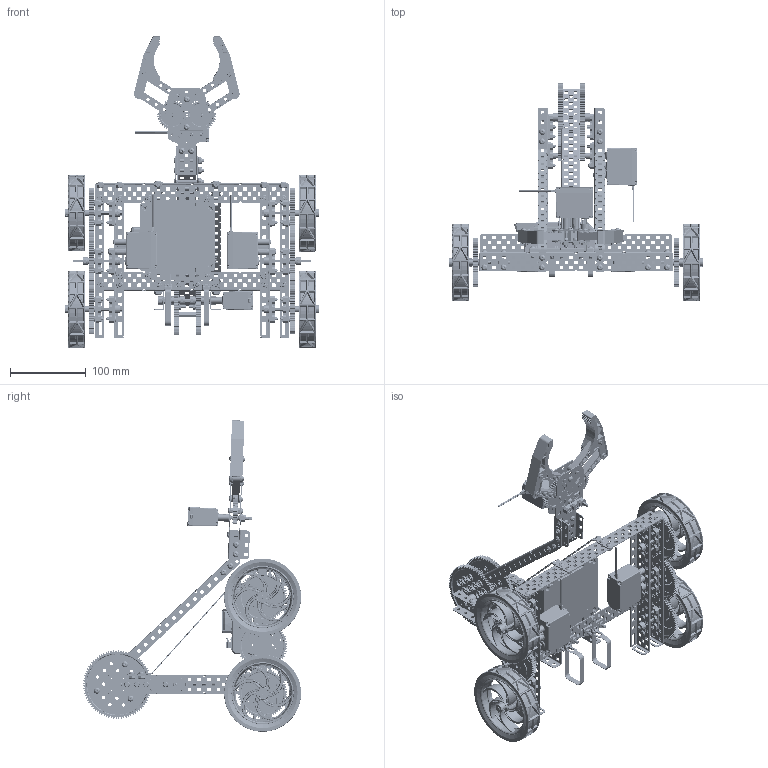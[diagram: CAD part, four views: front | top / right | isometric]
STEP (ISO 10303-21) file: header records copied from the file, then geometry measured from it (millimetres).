
FILE_DESCRIPTION((''),'2;1');
FILE_NAME('X:\Vex\Vex Kits\276-2600 Clawbot Robot Kit\_inventor\VEX Clawbot Assembly.stp','2012-06-18T14:02:58',('vex_intern'),(''),'Autodesk Inventor 2011','Autodesk Inventor 2011','');
FILE_SCHEMA(('AUTOMOTIVE_DESIGN { 1 0 10303 214 1 1 1 1 }'));
Length unit declared in the file: inch
Products named in the file (84): 276-2600-ASSY; ANGLE-22-20 RevA; VL-RAIL-21-16 RevA; VL-CHAN-121-15 RevA; BEARING-FLAT; SHAFT-COLLAR; 6-32 SET-SCREW; VEX-84-TOOTH-GEAR; SPACER-THIN; VEX-12-TOOTH-GEAR; 276-2177 Rev1-SIMPLE; SPPM206-0150BO; 276-2177-002 Rev1; 276-2177-003 Rev1; 276-2177-017 Rev1-SHORT; 276-2177-018 Rev1; 276-2177-019 Rev1; 276-2177-008 Rev1; 276-2177-001 Rev1; 276-2177-020 Rev1; VEX-60-TOOTH-GEAR; VEX-MEDIUM-WHEEL; MEDIUM-WHEEL-HUB; MEDIUM-WHEEL-TIRE; SHAFT-3000; CLUTCH-POST; 276-2194-ASSY; 276-2194-001 Rev2; 276-2194-PWM_LOCK_BUCKET; 276-2194-2_0_PCB_ASSY_REV2_ANY_ASM; 276-2194-2_0_WIFI_CONTACT_BLOCK_REV1_ANY; 276-2194-RIGHT_ANGLE_MICRO_SWITCH_ANY; 276-2194-100; 276-2194-101; 90deg-Header; KUSBV-AS-1-N-WHT; 276-2194-2_0_WIFI_PCB_REV1_ANY; 276-2194-MICROCONTROLLER-PCB-PIN4_ANY; 276-2194-2_0_BATT-POWER_SWITCH_REV1_ANY_ASM; 276-2194-NONE-47360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
Assembly tree (304 placements, depth 5):
  276-2600-ASSY
    ANGLE-22-20 RevA  x2
    VL-RAIL-21-16 RevA  x4
    VL-CHAN-121-15 RevA  x2
    BEARING-FLAT  x16
    SHAFT-COLLAR  x10
      SHAFT-COLLAR
      6-32 SET-SCREW
    VEX-84-TOOTH-GEAR  x2
    SPACER-THIN  x2
    VEX-12-TOOTH-GEAR  x2
    276-2177 Rev1-SIMPLE  x3
      SPPM206-0150BO
      276-2177-002 Rev1
      276-2177-003 Rev1
      276-2177-017 Rev1-SHORT
      276-2177-018 Rev1
      276-2177-019 Rev1
      276-2177-008 Rev1
      276-2177-001 Rev1
    SHAFT-COLLAR  x9
    276-2177-020 Rev1
    VEX-60-TOOTH-GEAR  x6
    SPACER-THIN  x4
    VEX-MEDIUM-WHEEL  x4
      MEDIUM-WHEEL-HUB
      MEDIUM-WHEEL-TIRE
    SHAFT-3000  x8
    CLUTCH-POST
    276-2194-ASSY
      276-2194-001 Rev2
      276-2194-PWM_LOCK_BUCKET
      276-2194-2_0_PCB_ASSY_REV2_ANY_ASM
        276-2194-2_0_WIFI_CONTACT_BLOCK_REV1_ANY  x2
        276-2194-RIGHT_ANGLE_MICRO_SWITCH_ANY
        276-2194-100
          276-2194-101
          90deg-Header  x2
          KUSBV-AS-1-N-WHT
        276-2194-2_0_WIFI_PCB_REV1_ANY
        276-2194-MICROCONTROLLER-PCB-PIN4_ANY  x2
        276-2194-2_0_BATT-POWER_SWITCH_REV1_ANY_ASM
          276-2194-NONE-47360
          276-2194-NONE-42108
        276-2194-WIFI_PCB_2PIN-MALE_BATTBKP_ANY
      276-2194-MOTOR_LOCK_BUCKET
      276-2194-LONG_LOCK_TAB
      276-2194-SWITCH_BUTTON
      276-2194-SMALL_LOCK_TAB
      276-2194-LIGHTPIPE  x3
      WIFI-KEY
      276-2194-BOTTOM-CASE
      276-2194-SHORT_LOCK_TAB
    VL-CHAN-121-20 RevA
    CLAW-ASSY
      VexLite-Claw-Brk RevA  x2
      SBS_SBS0832-0250ZB  x8
      Vex-Shaft-2inchSLDPRT
      Vex Rivet  x2
      Vex-Collar
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Bounding box: 336.35 x 287.89 x 411.25 mm (x, y, z)
Volume: 801247.8 mm3; surface area: 929346.7 mm2
Topology: 402 solids, 403 shells, 36072 faces, 112570 edges, 78128 vertices
Faces by surface type: plane 15743, cylinder 11927, bspline 5580, cone 1367, torus 1022, sphere 433
Full cylindrical faces by diameter (mm): 0.566 x12, 0.914 x12, 1 x3, 1.016 x6, 1.1 x3, 1.5 x2, 1.6 x40, 1.8 x2, 1.9 x12, 2 x78, 2.05 x4, 2.1 x12, 2.2 x40, 2.286 x35, 2.311 x2, 2.5 x1, 2.54 x11, 2.63 x2, 2.705 x8, 2.799 x4, 3.05 x3, 3.175 x1, 3.3 x34, 3.391 x4, 3.4 x1, 3.416 x8, 3.48 x38, 3.962 x16, 4 x5, 4.089 x1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
Entity records: 524586 total; most frequent: CARTESIAN_POINT 215642, ORIENTED_EDGE 66124, DIRECTION 60463, EDGE_CURVE 33062, VERTEX_POINT 21990, AXIS2_PLACEMENT_3D 20912, VECTOR 18639, LINE 18639
